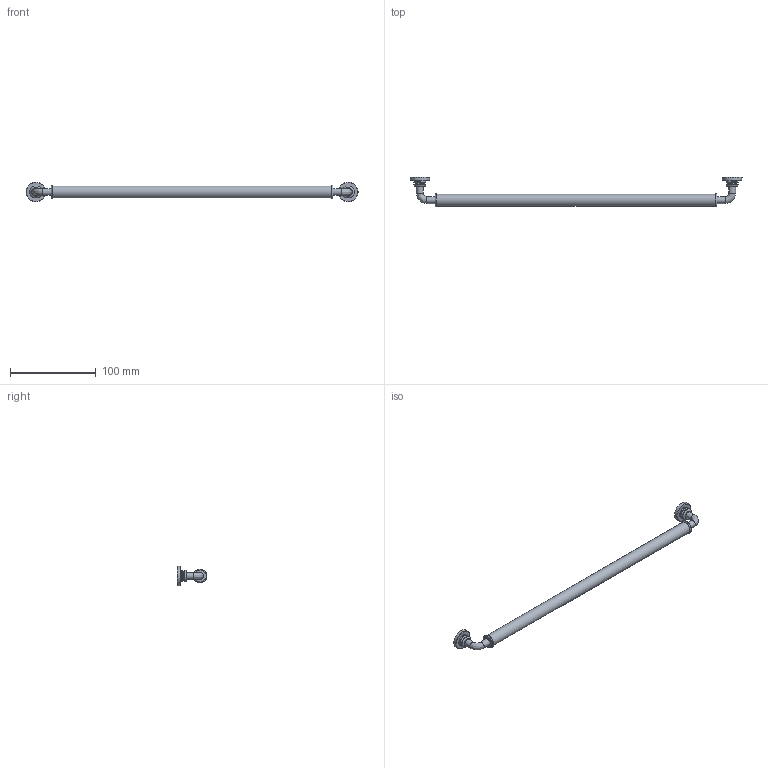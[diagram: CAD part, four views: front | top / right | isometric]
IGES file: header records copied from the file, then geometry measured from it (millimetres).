
Start section: Data from Parasolid IGES Translator 15.0.47, Copyright(c) 2006 Siemens P LM Software. All Rights Reserved.
Global section: file name: 9132275.igs; native system:  By UGS Corp.; preprocessor: XPlus GENERIC/IGES 3.0; author: Noname; organization: Noname; date: 20140122.102133; units: millimetre
Bounding box: 388 x 35 x 23 mm (x, y, z)
Surface area: 19321.9 mm2 (no closed solid volume)
Topology: 0 solids, 0 shells, 50 faces, 228 edges, 188 vertices
Faces by surface type: revolution 42, extrusion 8
